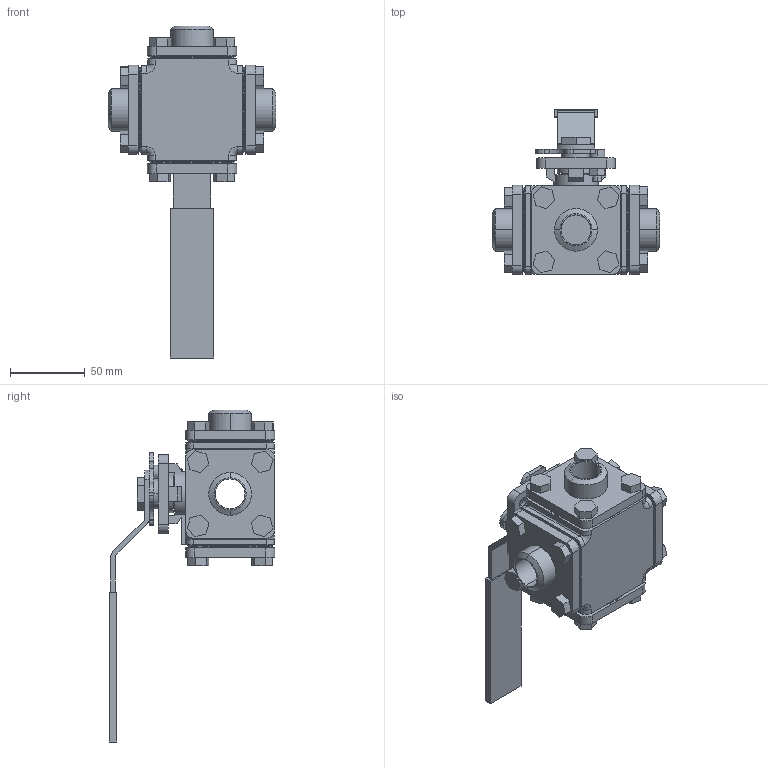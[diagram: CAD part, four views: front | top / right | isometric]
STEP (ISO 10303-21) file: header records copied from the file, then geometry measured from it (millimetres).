
FILE_DESCRIPTION (( 'STEP AP214' ), '1' );
FILE_NAME ('S350D DN20 BW HB.step', '2010-10-22T12:11:04', ( '' ), ( '' ), 'SwSTEP 2.0', 'SolidWorks 2010', '' );
FILE_SCHEMA (( 'AUTOMOTIVE_DESIGN' ));
Length unit declared in the file: millimetre
Products named in the file (7): S350D KK DN20 PN50; S350D Hendel DN20; DIN 912 M6 x 16 --- 16N_DIN 912 M6 x 16 --- 16N; Hexagon Nut ISO 4032 - M6 - D - N_Hexagon Nut ISO 4032 - M6 - D - N; S350D Blindflens DN20; S350D Buttweld DN20; S350D DN20 BW HB
Assembly tree (8 placements, depth 2):
  S350D DN20 BW HB
    DIN 912 M6 x 16 --- 16N_DIN 912 M6 x 16 --- 16N
    Hexagon Nut ISO 4032 - M6 - D - N_Hexagon Nut ISO 4032 - M6 - D - N
    S350D Blindflens DN20
    S350D Buttweld DN20  x3
    S350D KK DN20 PN50
    S350D Hendel DN20
Bounding box: 112 x 110.38 x 221.63 mm (x, y, z)
Volume: 412774.5 mm3; surface area: 102628.7 mm2
Topology: 8 solids, 9 shells, 517 faces, 1292 edges, 822 vertices
Faces by surface type: plane 323, cylinder 140, cone 42, torus 12
Entity records: 12881 total; most frequent: CARTESIAN_POINT 2280, DIRECTION 2208, ORIENTED_EDGE 2092, EDGE_CURVE 1046, AXIS2_PLACEMENT_3D 766, VECTOR 676, LINE 676, VERTEX_POINT 662
